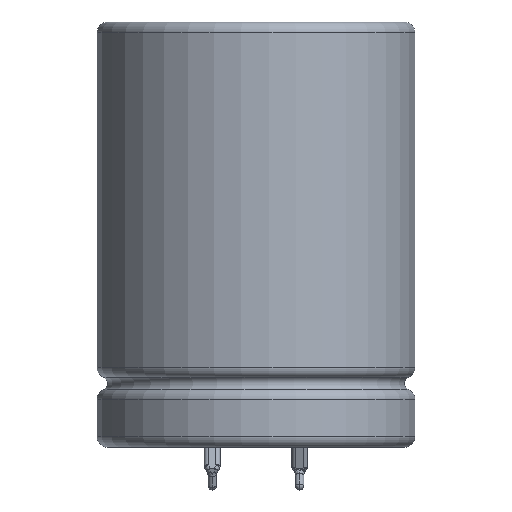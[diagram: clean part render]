
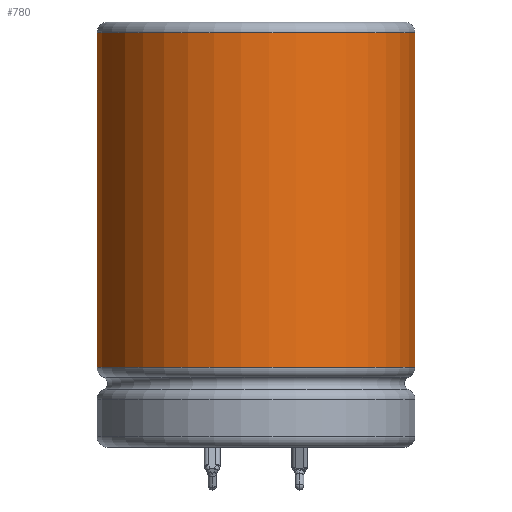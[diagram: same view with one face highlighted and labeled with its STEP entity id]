
A CAD part, left-side view. The second image highlights one B-rep face of the part: STEP entity #780.
In plain terms, the highlighted cylindrical face has radius 15 mm (diameter 30 mm), a partial arc.
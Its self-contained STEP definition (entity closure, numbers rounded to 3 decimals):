
#780=ADVANCED_FACE('',(#1064),#988,.T.);
#988=CYLINDRICAL_SURFACE('',#3980,15.);
#1064=FACE_OUTER_BOUND('',#1259,.T.);
#1259=EDGE_LOOP('',(#1989,#1990,#1991,#1992));
#1481=LINE('',#5546,#1735);
#1482=LINE('',#5550,#1736);
#1735=VECTOR('',#4418,1.);
#1736=VECTOR('',#4421,1.);
#1989=ORIENTED_EDGE('',*,*,#3287,.F.);
#1990=ORIENTED_EDGE('',*,*,#3288,.F.);
#1991=ORIENTED_EDGE('',*,*,#3289,.T.);
#1992=ORIENTED_EDGE('',*,*,#3290,.T.);
#2977=VERTEX_POINT('',#5544);
#2978=VERTEX_POINT('',#5545);
#2979=VERTEX_POINT('',#5547);
#2980=VERTEX_POINT('',#5549);
#3287=EDGE_CURVE('',#2977,#2978,#3781,.T.);
#3288=EDGE_CURVE('',#2979,#2977,#1481,.T.);
#3289=EDGE_CURVE('',#2979,#2980,#3782,.T.);
#3290=EDGE_CURVE('',#2980,#2978,#1482,.T.);
#3781=CIRCLE('',#3978,15.);
#3782=CIRCLE('',#3979,15.);
#3978=AXIS2_PLACEMENT_3D('',#5543,#4416,#4417);
#3979=AXIS2_PLACEMENT_3D('',#5548,#4419,#4420);
#3980=AXIS2_PLACEMENT_3D('',#5551,#4422,#4423);
#4416=DIRECTION('',(0.,0.,-1.));
#4417=DIRECTION('',(-1.,0.,0.));
#4418=DIRECTION('',(0.,0.,-1.));
#4419=DIRECTION('',(0.,0.,-1.));
#4420=DIRECTION('',(-1.,0.,0.));
#4421=DIRECTION('',(0.,0.,-1.));
#4422=DIRECTION('',(0.,0.,-1.));
#4423=DIRECTION('',(-1.,0.,0.));
#5543=CARTESIAN_POINT('',(0.,0.,7.5));
#5544=CARTESIAN_POINT('',(6.101,-13.703,7.5));
#5545=CARTESIAN_POINT('',(13.703,-6.101,7.5));
#5546=CARTESIAN_POINT('',(6.101,-13.703,39.));
#5547=CARTESIAN_POINT('',(6.101,-13.703,39.));
#5548=CARTESIAN_POINT('',(0.,0.,39.));
#5549=CARTESIAN_POINT('',(13.703,-6.101,39.));
#5550=CARTESIAN_POINT('',(13.703,-6.101,39.));
#5551=CARTESIAN_POINT('',(0.,0.,0.));
